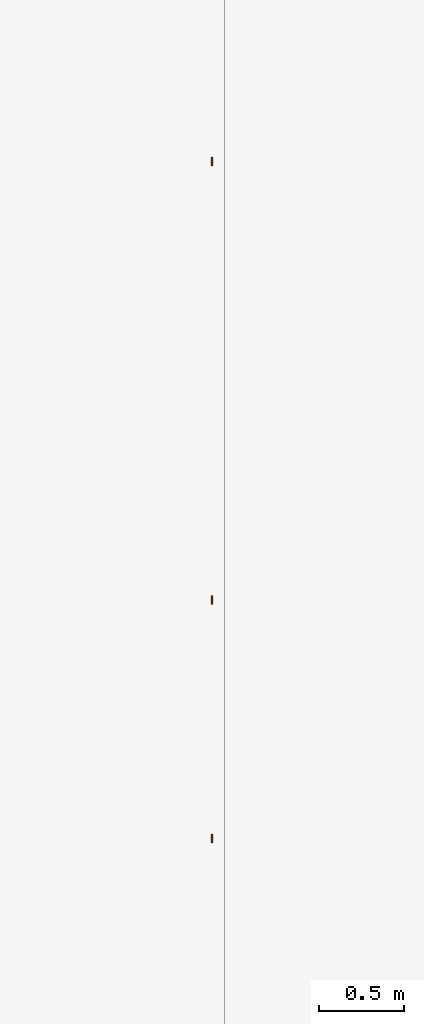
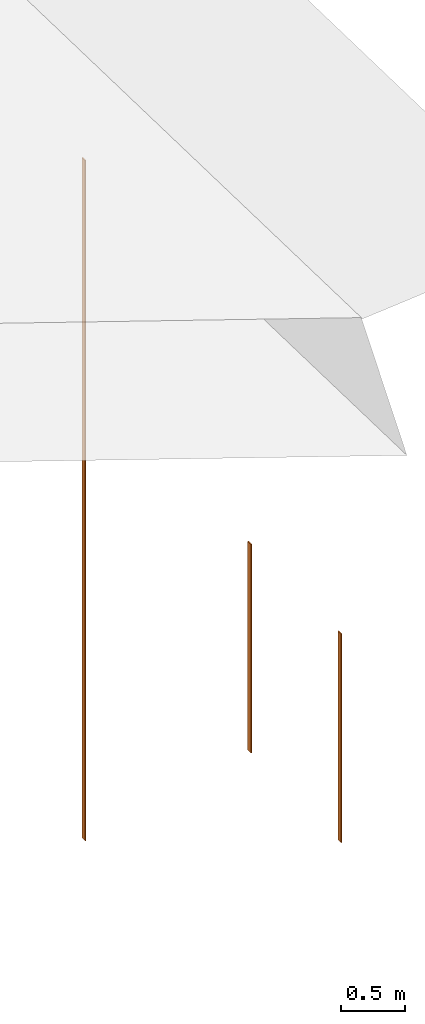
# One storey, part 3 of 7: 3 proxies.
"""IFC2X3 building model written with IfcOpenShell, lengths in millimetres."""

from ifc_helpers import new_model, entity, si_unit, converted_unit, derived_unit, direction, frame, frame_2d, origin, place, context, subcontext, project, spatial, rectangle, extrude, source, transform, mapped, material, type_object, type_shapes, element, save


model = new_model("IFC2X3")

# Units and contexts
model_context = context("Model", 3, precision=0.01, world=origin(), true_north=direction((0.7716245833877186, 0.6360782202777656)))
body_context = subcontext(model_context, "Body", "Model", "MODEL_VIEW")
ifc_project = project(units=[si_unit("LENGTHUNIT", "METRE", prefix="MILLI"), si_unit("AREAUNIT", "SQUARE_METRE"), converted_unit("PLANEANGLEUNIT", "DEGREE", entity("IfcPlaneAngleMeasure", 0.017453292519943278), si_unit("PLANEANGLEUNIT", "RADIAN"), dimensions=[0, 0, 0, 0, 0, 0, 0]), derived_unit("THERMALTRANSMITTANCEUNIT", [(si_unit("MASSUNIT", "GRAM", prefix="KILO"), 1), (si_unit("THERMODYNAMICTEMPERATUREUNIT", "KELVIN"), -1), (si_unit("TIMEUNIT", "SECOND"), -3)])], contexts=[model_context])

# Site, building, storey
site_placement = place(None, origin())
site = spatial("IfcSite", under=ifc_project, at=site_placement, Name="Default", CompositionType="ELEMENT")
building_placement = place(site_placement, origin())
building = spatial("IfcBuilding", under=site, at=building_placement, CompositionType="ELEMENT")
storey_placement = place(building_placement, frame((0.0, 0.0, 37100.0)))
storey = spatial("IfcBuildingStorey", under=building, at=storey_placement, Name="PLAN 03 (EKS. TAK)", CompositionType="ELEMENT", Elevation=37100.0)

# Proxies
ifc_material = material(Name="Aluminum")
building_element_proxy_type_1 = type_object("IfcBuildingElementProxyType", Name="Fasade profil, VER:Fasade profil 100x50", PredefinedType="NOTDEFINED", material=ifc_material)
shared_shape_1 = source(origin(), body_context, "Body", "SweptSolid", [
    extrude(rectangle(XDim=50.000000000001, YDim=10.000000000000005, at=frame_2d((-2.1316282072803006e-14, 0.0), x_axis=(1.0, 0.0))), frame((25.0, -5.0, 0.0), z_axis=(0.0, 0.0, 1.0), x_axis=(-1.0, 0.0, 0.0)), (0.0, 0.0, 1.0), 1989.9999999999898),
])
type_shapes(building_element_proxy_type_1, [shared_shape_1])
for number, where, z_axis, x_axis, name in (
    (1, (277990.257347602, 54470.25555007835, -3810.0), (0.0, 0.0, 1.0), (0.0, 1.0, 0.0), "Fasade profil, VER:Fasade profil 100x50"),
    (2, (277990.257347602, 55880.255550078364, -3810.0), (0.0, 0.0, 1.0), (0.0, 1.0, 0.0), "Fasade profil, VER:Fasade profil 100x50"),
):
    element("IfcBuildingElementProxy", number, at=place(storey_placement, frame(where, z_axis=z_axis, x_axis=x_axis)), inside=storey, type_object=building_element_proxy_type_1, material=ifc_material, Name=name, ObjectType="Fasade profil, VER:Fasade profil 100x50", context=body_context, shape_type="MappedRepresentation", body=[
        mapped(shared_shape_1, transform((0.0, 0.0, 0.0), scale=1.0)),
    ])
building_element_proxy_type_2 = type_object("IfcBuildingElementProxyType", Name="Fasade profil, VER:Fasade profil 100x50", PredefinedType="NOTDEFINED", material=ifc_material)
shared_shape_2 = source(origin(), body_context, "Body", "SweptSolid", [
    extrude(rectangle(XDim=50.000000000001, YDim=10.000000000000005, at=frame_2d((-2.1316282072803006e-14, 0.0), x_axis=(1.0, 0.0))), frame((25.0, -5.0, 0.0), z_axis=(0.0, 0.0, 1.0), x_axis=(-1.0, 0.0, 0.0)), (0.0, 0.0, 1.0), 6488.79938517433),
])
type_shapes(building_element_proxy_type_2, [shared_shape_2])
proxy_placement = place(storey_placement, frame((277990.257347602, 58470.25555007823, -6217.685677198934), z_axis=(0.0, 0.0, 1.0), x_axis=(0.0, 1.0, 0.0)))
element("IfcBuildingElementProxy", 3, at=proxy_placement, inside=storey, type_object=building_element_proxy_type_2, material=ifc_material, Name="Fasade profil, VER:Fasade profil 100x50", ObjectType="Fasade profil, VER:Fasade profil 100x50", context=body_context, shape_type="MappedRepresentation", body=[
    mapped(shared_shape_2, transform((0.0, 0.0, 0.0), scale=1.0)),
])

save(model, "model.ifc")
